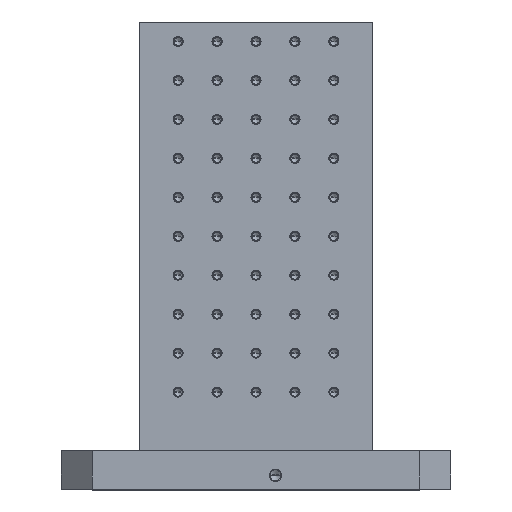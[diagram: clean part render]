
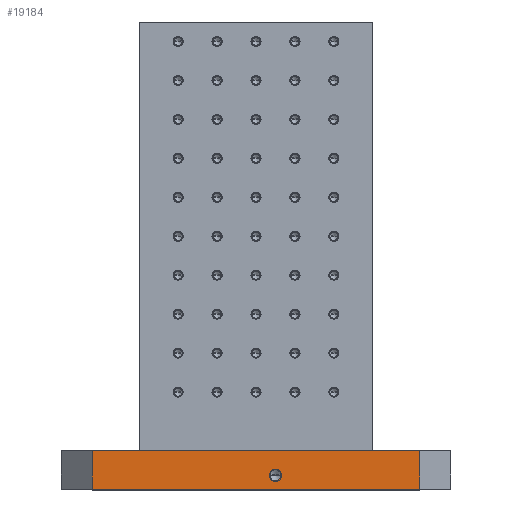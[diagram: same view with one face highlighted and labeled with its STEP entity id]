
A CAD part, top view. The second image highlights one B-rep face of the part: STEP entity #19184.
In plain terms, the highlighted planar face has unit normal (0, 0, 1).
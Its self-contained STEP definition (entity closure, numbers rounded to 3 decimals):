
#5=DIRECTION('',(1.,0.,0.));
#6=VECTOR('',#5,420.);
#7=CARTESIAN_POINT('',(-210.,-25.,250.));
#8=LINE('',#7,#6);
#221=DIRECTION('',(0.,-1.,0.));
#222=VECTOR('',#221,50.);
#223=CARTESIAN_POINT('',(-210.,25.,250.));
#224=LINE('',#223,#222);
#225=DIRECTION('',(0.,-1.,0.));
#226=VECTOR('',#225,50.);
#227=CARTESIAN_POINT('',(210.,25.,250.));
#228=LINE('',#227,#226);
#229=CARTESIAN_POINT('',(25.,-7.,250.));
#230=DIRECTION('',(0.,0.,1.));
#231=DIRECTION('',(-1.,0.,0.));
#232=AXIS2_PLACEMENT_3D('',#229,#230,#231);
#234=CARTESIAN_POINT('',(25.,-7.,250.));
#235=DIRECTION('',(0.,0.,1.));
#236=DIRECTION('',(1.,0.,0.));
#237=AXIS2_PLACEMENT_3D('',#234,#235,#236);
#283=DIRECTION('',(1.,0.,0.));
#284=VECTOR('',#283,420.);
#285=CARTESIAN_POINT('',(-210.,25.,250.));
#286=LINE('',#285,#284);
#14741=CARTESIAN_POINT('',(-210.,-25.,250.));
#14743=VERTEX_POINT('',#14741);
#14747=CARTESIAN_POINT('',(-210.,25.,250.));
#14748=VERTEX_POINT('',#14747);
#14766=CARTESIAN_POINT('',(210.,-25.,250.));
#14768=VERTEX_POINT('',#14766);
#14769=CARTESIAN_POINT('',(210.,25.,250.));
#14770=VERTEX_POINT('',#14769);
#14831=CARTESIAN_POINT('',(18.,-7.,250.));
#14832=CARTESIAN_POINT('',(32.,-7.,250.));
#14833=VERTEX_POINT('',#14831);
#14834=VERTEX_POINT('',#14832);
#19166=CARTESIAN_POINT('',(-250.,-25.,250.));
#19167=DIRECTION('',(0.,0.,1.));
#19168=DIRECTION('',(1.,0.,0.));
#19169=AXIS2_PLACEMENT_3D('',#19166,#19167,#19168);
#19170=PLANE('',#19169);
#19171=ORIENTED_EDGE('',*,*,#19065,.F.);
#19173=ORIENTED_EDGE('',*,*,#19172,.T.);
#19174=ORIENTED_EDGE('',*,*,#19158,.T.);
#19175=ORIENTED_EDGE('',*,*,#18922,.F.);
#19176=EDGE_LOOP('',(#19171,#19173,#19174,#19175));
#19177=FACE_OUTER_BOUND('',#19176,.F.);
#19179=ORIENTED_EDGE('',*,*,#19178,.T.);
#19181=ORIENTED_EDGE('',*,*,#19180,.T.);
#19182=EDGE_LOOP('',(#19179,#19181));
#19183=FACE_BOUND('',#19182,.F.);
#19184=ADVANCED_FACE('',(#19177,#19183),#19170,.T.);
#233=CIRCLE('',#232,7.);
#238=CIRCLE('',#237,7.);
#18922=EDGE_CURVE('',#14743,#14768,#8,.T.);
#19065=EDGE_CURVE('',#14748,#14743,#224,.T.);
#19158=EDGE_CURVE('',#14770,#14768,#228,.T.);
#19172=EDGE_CURVE('',#14748,#14770,#286,.T.);
#19178=EDGE_CURVE('',#14833,#14834,#233,.T.);
#19180=EDGE_CURVE('',#14834,#14833,#238,.T.);
